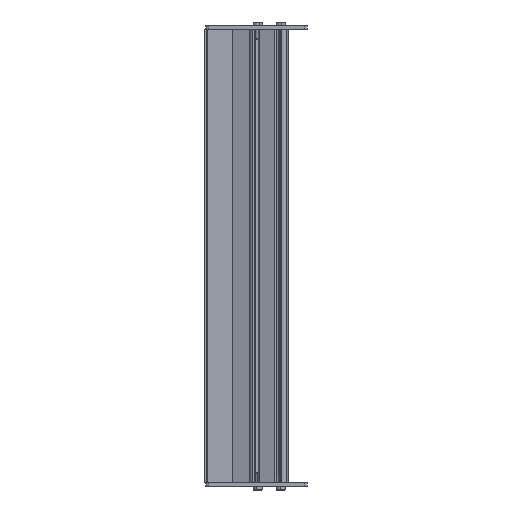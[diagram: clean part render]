
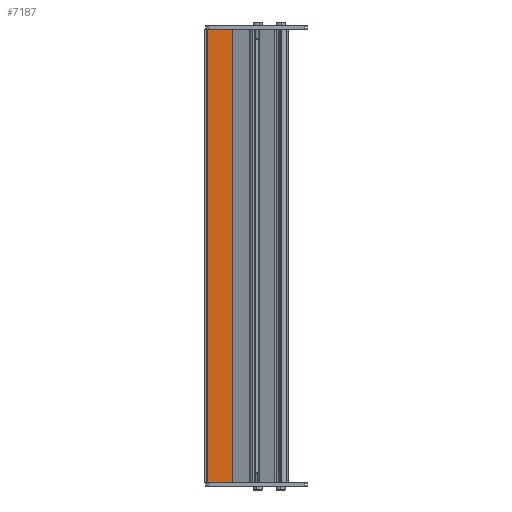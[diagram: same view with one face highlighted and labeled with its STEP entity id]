
A CAD part, left-side view. The second image highlights one B-rep face of the part: STEP entity #7187.
In plain terms, the highlighted planar face has unit normal (-1, 0, 0) as drawn and (1, 0, 0) by its records, which use the part's own axes.
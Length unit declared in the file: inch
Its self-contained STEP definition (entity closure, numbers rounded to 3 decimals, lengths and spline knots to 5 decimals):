
#6448=DIRECTION('',(0.,0.,-1.));
#6449=VECTOR('',#6448,16.236);
#6450=CARTESIAN_POINT('',(0.048,0.904,8.118));
#6451=LINE('',#6450,#6449);
#6474=DIRECTION('',(0.,-1.,0.));
#6475=VECTOR('',#6474,0.88707);
#6476=CARTESIAN_POINT('',(0.048,0.904,-8.118));
#6477=LINE('',#6476,#6475);
#6494=DIRECTION('',(0.,-1.,0.));
#6495=VECTOR('',#6494,0.88707);
#6496=CARTESIAN_POINT('',(0.048,0.904,8.118));
#6497=LINE('',#6496,#6495);
#6502=DIRECTION('',(0.,0.,1.));
#6503=VECTOR('',#6502,16.236);
#6504=CARTESIAN_POINT('',(0.048,0.01693,-8.118));
#6505=LINE('',#6504,#6503);
#6865=CARTESIAN_POINT('',(0.048,0.01693,-8.118));
#6867=VERTEX_POINT('',#6865);
#6880=CARTESIAN_POINT('',(0.048,0.904,-8.118));
#6881=VERTEX_POINT('',#6880);
#6908=CARTESIAN_POINT('',(0.048,0.01693,8.118));
#6910=VERTEX_POINT('',#6908);
#6950=CARTESIAN_POINT('',(0.048,0.904,8.118));
#6951=VERTEX_POINT('',#6950);
#7175=CARTESIAN_POINT('',(0.048,0.,8.118));
#7176=DIRECTION('',(-1.,0.,0.));
#7177=DIRECTION('',(0.,0.,1.));
#7178=AXIS2_PLACEMENT_3D('',#7175,#7176,#7177);
#7179=PLANE('',#7178);
#7180=ORIENTED_EDGE('',*,*,#7128,.T.);
#7182=ORIENTED_EDGE('',*,*,#7181,.T.);
#7183=ORIENTED_EDGE('',*,*,#7168,.F.);
#7184=ORIENTED_EDGE('',*,*,#7098,.T.);
#7185=EDGE_LOOP('',(#7180,#7182,#7183,#7184));
#7186=FACE_OUTER_BOUND('',#7185,.F.);
#7098=EDGE_CURVE('',#6951,#6881,#6451,.T.);
#7128=EDGE_CURVE('',#6881,#6867,#6477,.T.);
#7168=EDGE_CURVE('',#6951,#6910,#6497,.T.);
#7181=EDGE_CURVE('',#6867,#6910,#6505,.T.);
#7187=ADVANCED_FACE('',(#7186),#7179,.F.);
